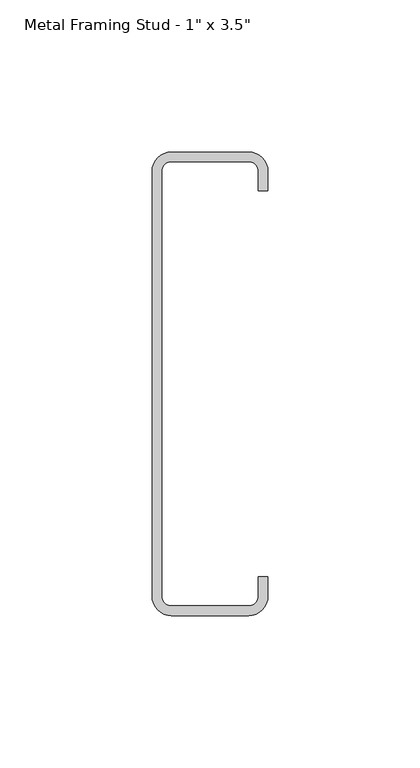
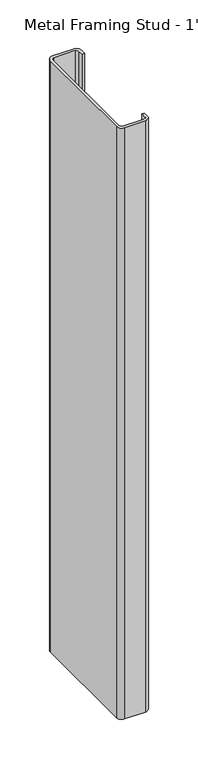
"""IFC4 building model written with IfcOpenShell, lengths in millimetres: proxy geometry."""

from ifc_helpers import new_model, si_unit, point, frame_2d, origin, origin_with_axes, place, context, project, spatial, polyline, circle_curve, trimmed, segment, composite_curve, outline, extrude, source, transform, mapped, element, save


def proxy_0073da47(model_context):
    return source(origin(), model_context, "Body", "SweptSolid", [
        extrude(outline(composite_curve([segment(polyline([(19.05, 63.5), (15.875, 63.5), (15.875, 70.2679713)]), True, "CONTINUOUS"), segment(trimmed(circle_curve(frame_2d((12.7, 69.85)), 3.2023936), [point((15.875, 70.2679713))], [point((13.1179713, 73.025))], True, "CARTESIAN"), True, "CONTINUOUS"), segment(polyline([(13.1179713, 73.025), (-13.1179713, 73.025)]), True, "CONTINUOUS"), segment(trimmed(circle_curve(frame_2d((-12.7, 69.85)), 3.2023936), [point((-13.1179713, 73.025))], [point((-15.875, 70.2679713))], True, "CARTESIAN"), True, "CONTINUOUS"), segment(polyline([(-15.875, 70.2679713), (-15.875, -70.2679713)]), True, "CONTINUOUS"), segment(trimmed(circle_curve(frame_2d((-12.7, -69.85)), 3.2023936), [point((-15.875, -70.2679713))], [point((-13.1179713, -73.025))], True, "CARTESIAN"), True, "CONTINUOUS"), segment(polyline([(-13.1179713, -73.025), (13.1179713, -73.025)]), True, "CONTINUOUS"), segment(trimmed(circle_curve(frame_2d((12.7, -69.85)), 3.2023936), [point((13.1179713, -73.025))], [point((15.875, -70.2679713))], True, "CARTESIAN"), True, "CONTINUOUS"), segment(polyline([(15.875, -70.2679713), (15.875, -63.5), (19.05, -63.5), (19.05, -69.85)]), True, "CONTINUOUS"), segment(trimmed(circle_curve(frame_2d((12.7, -69.85)), 6.35), [point((19.05, -69.85))], [point((12.7, -76.2))], False, "CARTESIAN"), True, "CONTINUOUS"), segment(polyline([(12.7, -76.2), (-12.7, -76.2)]), True, "CONTINUOUS"), segment(trimmed(circle_curve(frame_2d((-12.7, -69.85)), 6.35), [point((-12.7, -76.2))], [point((-19.05, -69.85))], False, "CARTESIAN"), True, "CONTINUOUS"), segment(polyline([(-19.05, -69.85), (-19.05, 69.85)]), True, "CONTINUOUS"), segment(trimmed(circle_curve(frame_2d((-12.7, 69.85)), 6.35), [point((-19.05, 69.85))], [point((-12.7, 76.2))], False, "CARTESIAN"), True, "CONTINUOUS"), segment(polyline([(-12.7, 76.2), (12.7, 76.2)]), True, "CONTINUOUS"), segment(trimmed(circle_curve(frame_2d((12.7, 69.85)), 6.35), [point((12.7, 76.2))], [point((19.05, 69.85))], False, "CARTESIAN"), True, "CONTINUOUS"), segment(polyline([(19.05, 69.85), (19.05, 63.5)]), True, "CONTINUOUS")], self_intersect=False)), origin_with_axes(), (0.0, 0.0, 1.0), 762.0),
    ])


if __name__ == "__main__":
    model = new_model("IFC4")
    model_context = context("Model", 3, world=origin())
    ifc_project = project(units=[si_unit("LENGTHUNIT", "METRE", prefix="MILLI")], contexts=[model_context])
    site = spatial("IfcSite", under=ifc_project)
    building = spatial("IfcBuilding", under=site)
    placement = place(None, origin())
    proxy_shape = proxy_0073da47(model_context)
    element("IfcBuildingElementProxy", 1, Name="CRAi Generic Model Metal Stud : Metal Framing Stud - 1\" x 3.5\"", ObjectType="CRAi Generic Model Metal Stud : Metal Framing Stud - 1\" x 3.5\"", at=placement, inside=building, context=model_context, shape_type="MappedRepresentation", body=[
        mapped(proxy_shape, transform((0.0, 0.0, 0.0), x_axis=(1.0, 0.0, 0.0), y_axis=(0.0, 1.0, 0.0), z_axis=(0.0, 0.0, 1.0))),
    ])
    save(model, "model.ifc")
